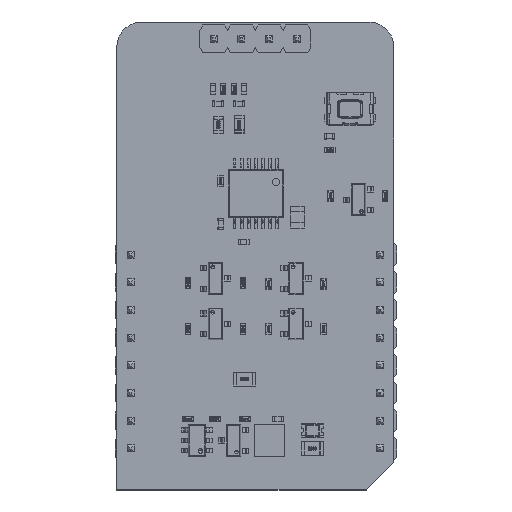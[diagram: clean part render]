
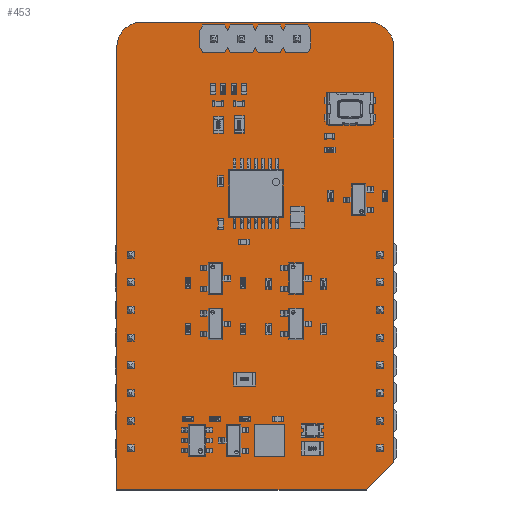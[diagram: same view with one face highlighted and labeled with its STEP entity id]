
A CAD part, top view. The second image highlights one B-rep face of the part: STEP entity #453.
In plain terms, the highlighted planar face has unit normal (0, 0, 1).
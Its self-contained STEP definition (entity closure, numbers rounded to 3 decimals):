
#224 = VERTEX_POINT('',#225);
#225 = CARTESIAN_POINT('',(-1.27,-3.81,1.59));
#231 = EDGE_CURVE('',#224,#232,#234,.T.);
#232 = VERTEX_POINT('',#233);
#233 = CARTESIAN_POINT('',(-1.27,36.83,1.59));
#234 = LINE('',#235,#236);
#235 = CARTESIAN_POINT('',(-1.27,-3.81,1.59));
#236 = VECTOR('',#237,1.);
#237 = DIRECTION('',(0.,1.,0.));
#262 = EDGE_CURVE('',#232,#263,#265,.T.);
#263 = VERTEX_POINT('',#264);
#264 = CARTESIAN_POINT('',(1.016,39.116,1.59));
#265 = CIRCLE('',#266,2.288);
#266 = AXIS2_PLACEMENT_3D('',#267,#268,#269);
#267 = CARTESIAN_POINT('',(1.018,36.828,1.59));
#268 = DIRECTION('',(0.,0.,-1.));
#269 = DIRECTION('',(-1.,0.001,0.));
#295 = EDGE_CURVE('',#263,#296,#298,.T.);
#296 = VERTEX_POINT('',#297);
#297 = CARTESIAN_POINT('',(21.844,39.116,1.59));
#298 = LINE('',#299,#300);
#299 = CARTESIAN_POINT('',(1.016,39.116,1.59));
#300 = VECTOR('',#301,1.);
#301 = DIRECTION('',(1.,0.,0.));
#326 = EDGE_CURVE('',#296,#327,#329,.T.);
#327 = VERTEX_POINT('',#328);
#328 = CARTESIAN_POINT('',(24.13,36.83,1.59));
#329 = CIRCLE('',#330,2.288);
#330 = AXIS2_PLACEMENT_3D('',#331,#332,#333);
#331 = CARTESIAN_POINT('',(21.842,36.828,1.59));
#332 = DIRECTION('',(0.,0.,-1.));
#333 = DIRECTION('',(0.001,1.,0.));
#359 = EDGE_CURVE('',#327,#360,#362,.T.);
#360 = VERTEX_POINT('',#361);
#361 = CARTESIAN_POINT('',(24.13,-1.27,1.59));
#362 = LINE('',#363,#364);
#363 = CARTESIAN_POINT('',(24.13,36.83,1.59));
#364 = VECTOR('',#365,1.);
#365 = DIRECTION('',(0.,-1.,0.));
#390 = EDGE_CURVE('',#360,#391,#393,.T.);
#391 = VERTEX_POINT('',#392);
#392 = CARTESIAN_POINT('',(21.59,-3.81,1.59));
#393 = LINE('',#394,#395);
#394 = CARTESIAN_POINT('',(24.13,-1.27,1.59));
#395 = VECTOR('',#396,1.);
#396 = DIRECTION('',(-0.707,-0.707,0.));
#421 = EDGE_CURVE('',#391,#224,#422,.T.);
#422 = LINE('',#423,#424);
#423 = CARTESIAN_POINT('',(21.59,-3.81,1.59));
#424 = VECTOR('',#425,1.);
#425 = DIRECTION('',(-1.,0.,0.));
#453 = ADVANCED_FACE('',(#454),#463,.F.);
#454 = FACE_BOUND('',#455,.F.);
#455 = EDGE_LOOP('',(#456,#457,#458,#459,#460,#461,#462));
#456 = ORIENTED_EDGE('',*,*,#231,.T.);
#457 = ORIENTED_EDGE('',*,*,#262,.T.);
#458 = ORIENTED_EDGE('',*,*,#295,.T.);
#459 = ORIENTED_EDGE('',*,*,#326,.T.);
#460 = ORIENTED_EDGE('',*,*,#359,.T.);
#461 = ORIENTED_EDGE('',*,*,#390,.T.);
#462 = ORIENTED_EDGE('',*,*,#421,.T.);
#463 = PLANE('',#464);
#464 = AXIS2_PLACEMENT_3D('',#465,#466,#467);
#465 = CARTESIAN_POINT('',(11.278,17.566,1.59));
#466 = DIRECTION('',(-0.,-0.,-1.));
#467 = DIRECTION('',(-1.,0.,0.));
